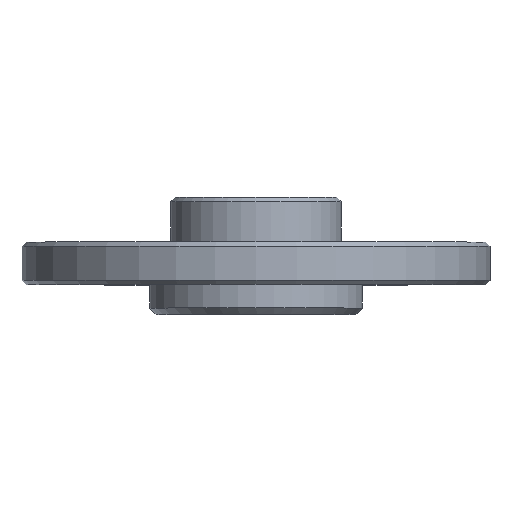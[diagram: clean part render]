
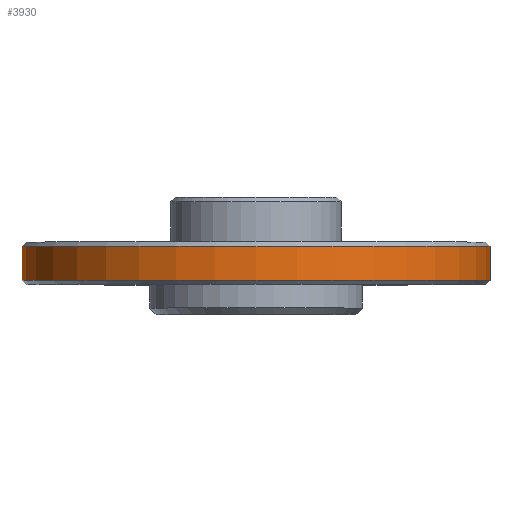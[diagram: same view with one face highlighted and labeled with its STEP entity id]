
A CAD part, top view. The second image highlights one B-rep face of the part: STEP entity #3930.
In plain terms, the highlighted cylindrical face has radius 11 mm (diameter 22 mm), a partial arc.
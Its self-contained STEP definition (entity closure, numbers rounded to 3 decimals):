
#1099=DIRECTION('',(0.,1.,0.));
#1100=VECTOR('',#1099,1.6);
#1101=CARTESIAN_POINT('',(-11.,0.2,
0.));
#1102=LINE('',#1101,#1100);
#1108=DIRECTION('',(0.,1.,0.));
#1109=VECTOR('',#1108,1.6);
#1110=CARTESIAN_POINT('',(11.,0.2,
0.));
#1111=LINE('',#1110,#1109);
#1112=CARTESIAN_POINT('',(0.,1.8,0.));
#1113=DIRECTION('',(0.,1.,0.));
#1114=DIRECTION('',(-1.,0.,0.));
#1115=AXIS2_PLACEMENT_3D('',#1112,#1113,#1114);
#1117=CARTESIAN_POINT('',(0.,0.2,0.));
#1118=DIRECTION('',(0.,1.,0.));
#1119=DIRECTION('',(-1.,0.,0.));
#1120=AXIS2_PLACEMENT_3D('',#1117,#1118,#1119);
#2512=CARTESIAN_POINT('',(-11.,1.8,0.));
#2513=CARTESIAN_POINT('',(11.,1.8,0.));
#2514=VERTEX_POINT('',#2512);
#2515=VERTEX_POINT('',#2513);
#2516=CARTESIAN_POINT('',(-11.,0.2,0.));
#2517=CARTESIAN_POINT('',(11.,0.2,0.));
#2518=VERTEX_POINT('',#2516);
#2519=VERTEX_POINT('',#2517);
#3918=CARTESIAN_POINT('',(0.,4.375,0.));
#3919=DIRECTION('',(0.,-1.,0.));
#3920=DIRECTION('',(-1.,0.,0.));
#3921=AXIS2_PLACEMENT_3D('',#3918,#3919,#3920);
#3922=CYLINDRICAL_SURFACE('',#3921,11.);
#3923=ORIENTED_EDGE('',*,*,#3883,.T.);
#3924=ORIENTED_EDGE('',*,*,#3913,.F.);
#3926=ORIENTED_EDGE('',*,*,#3925,.F.);
#3927=ORIENTED_EDGE('',*,*,#3909,.T.);
#3928=EDGE_LOOP('',(#3923,#3924,#3926,#3927));
#3929=FACE_OUTER_BOUND('',#3928,.F.);
#3930=ADVANCED_FACE('',(#3929),#3922,.T.);
#1116=CIRCLE('',#1115,11.);
#1121=CIRCLE('',#1120,11.);
#3883=EDGE_CURVE('',#2514,#2515,#1116,.T.);
#3909=EDGE_CURVE('',#2518,#2514,#1102,.T.);
#3913=EDGE_CURVE('',#2519,#2515,#1111,.T.);
#3925=EDGE_CURVE('',#2518,#2519,#1121,.T.);
